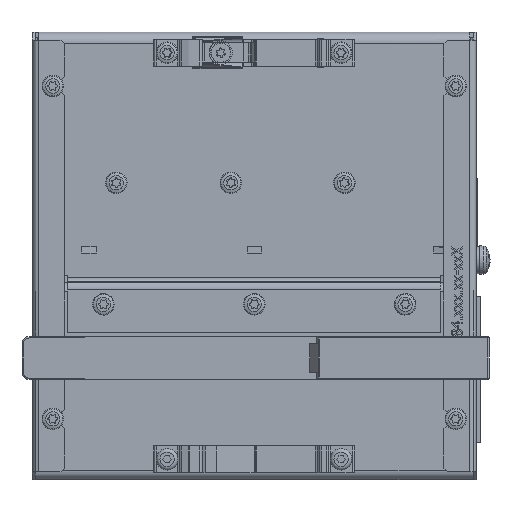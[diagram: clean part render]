
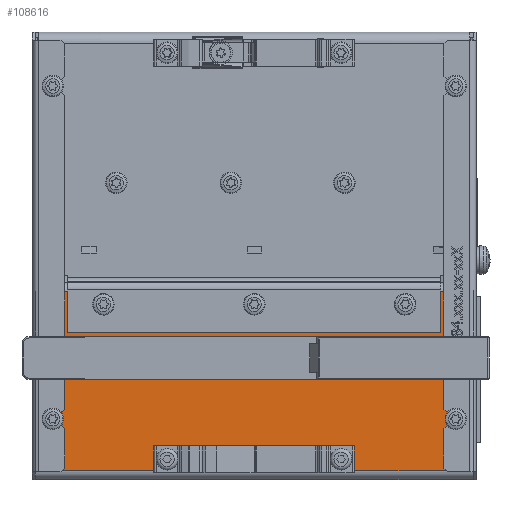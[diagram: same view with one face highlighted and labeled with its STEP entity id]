
A CAD part, left-side view. The second image highlights one B-rep face of the part: STEP entity #108616.
In plain terms, the highlighted planar face has unit normal (-1, 0, 0).
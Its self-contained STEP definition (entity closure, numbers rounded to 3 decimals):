
#4510=FACE_BOUND('',#19971,.T.);
#4511=FACE_BOUND('',#19972,.T.);
#7968=PLANE('',#115328);
#13128=FACE_OUTER_BOUND('',#19970,.T.);
#19970=EDGE_LOOP('',(#96073,#96074,#96075,#96076));
#19971=EDGE_LOOP('',(#96077));
#19972=EDGE_LOOP('',(#96078,#96079,#96080,#96081));
#31722=LINE('',#169861,#44239);
#31762=LINE('',#169973,#44279);
#31769=LINE('',#170005,#44286);
#31772=LINE('',#170011,#44289);
#31775=LINE('',#170017,#44292);
#31778=LINE('',#170021,#44295);
#31781=LINE('',#170027,#44298);
#31783=LINE('',#170031,#44300);
#44239=VECTOR('',#136136,10.);
#44279=VECTOR('',#136256,10.);
#44286=VECTOR('',#136293,10.);
#44289=VECTOR('',#136298,10.);
#44292=VECTOR('',#136303,10.);
#44295=VECTOR('',#136308,10.);
#44298=VECTOR('',#136317,10.);
#44300=VECTOR('',#136323,10.);
#47561=CIRCLE('',#115317,1.225);
#55496=VERTEX_POINT('',#169858);
#55497=VERTEX_POINT('',#169860);
#55528=VERTEX_POINT('',#169970);
#55529=VERTEX_POINT('',#169972);
#55534=VERTEX_POINT('',#169993);
#55538=VERTEX_POINT('',#170002);
#55539=VERTEX_POINT('',#170004);
#55541=VERTEX_POINT('',#170010);
#55543=VERTEX_POINT('',#170016);
#69454=EDGE_CURVE('',#55496,#55497,#31722,.T.);
#69510=EDGE_CURVE('',#55529,#55528,#31762,.T.);
#69521=EDGE_CURVE('',#55534,#55534,#47561,.T.);
#69526=EDGE_CURVE('',#55539,#55538,#31769,.T.);
#69529=EDGE_CURVE('',#55541,#55539,#31772,.T.);
#69532=EDGE_CURVE('',#55543,#55541,#31775,.T.);
#69535=EDGE_CURVE('',#55538,#55543,#31778,.T.);
#69538=EDGE_CURVE('',#55528,#55497,#31781,.T.);
#69540=EDGE_CURVE('',#55496,#55529,#31783,.T.);
#96073=ORIENTED_EDGE('',*,*,#69538,.T.);
#96074=ORIENTED_EDGE('',*,*,#69454,.F.);
#96075=ORIENTED_EDGE('',*,*,#69540,.T.);
#96076=ORIENTED_EDGE('',*,*,#69510,.T.);
#96077=ORIENTED_EDGE('',*,*,#69521,.T.);
#96078=ORIENTED_EDGE('',*,*,#69532,.T.);
#96079=ORIENTED_EDGE('',*,*,#69529,.T.);
#96080=ORIENTED_EDGE('',*,*,#69526,.T.);
#96081=ORIENTED_EDGE('',*,*,#69535,.T.);
#108616=ADVANCED_FACE('',(#13128,#4510,#4511),#7968,.T.);
#115317=AXIS2_PLACEMENT_3D('',#169994,#136284,#136285);
#115328=AXIS2_PLACEMENT_3D('',#170032,#136324,#136325);
#136136=DIRECTION('',(0.,1.,0.));
#136256=DIRECTION('',(0.,1.,0.));
#136284=DIRECTION('center_axis',(1.,0.,0.));
#136285=DIRECTION('ref_axis',(0.,0.,-1.));
#136293=DIRECTION('',(0.,-1.,0.));
#136298=DIRECTION('',(0.,0.,1.));
#136303=DIRECTION('',(0.,1.,0.));
#136308=DIRECTION('',(0.,0.,-1.));
#136317=DIRECTION('',(0.,0.,-1.));
#136323=DIRECTION('',(0.,0.,1.));
#136324=DIRECTION('center_axis',(-1.,0.,0.));
#136325=DIRECTION('ref_axis',(0.,0.,1.));
#169858=CARTESIAN_POINT('',(0.,-25.,-61.15));
#169860=CARTESIAN_POINT('',(0.,25.,-61.15));
#169861=CARTESIAN_POINT('',(0.,-27.5,-61.15));
#169970=CARTESIAN_POINT('',(0.,25.,61.15));
#169972=CARTESIAN_POINT('',(0.,-25.,61.15));
#169973=CARTESIAN_POINT('',(0.,-27.5,61.15));
#169993=CARTESIAN_POINT('',(0.,21.8,25.575));
#169994=CARTESIAN_POINT('Origin',(0.,21.8,24.35));
#170002=CARTESIAN_POINT('',(0.,-8.7,-30.4));
#170004=CARTESIAN_POINT('',(0.,-4.3,-30.4));
#170005=CARTESIAN_POINT('',(0.,-18.1,-30.4));
#170010=CARTESIAN_POINT('',(0.,-4.3,-34.8));
#170011=CARTESIAN_POINT('',(0.,-4.3,-45.775));
#170016=CARTESIAN_POINT('',(0.,-8.7,-34.8));
#170017=CARTESIAN_POINT('',(0.,-15.9,-34.8));
#170021=CARTESIAN_POINT('',(0.,-8.7,-47.975));
#170027=CARTESIAN_POINT('',(0.,25.,-61.15));
#170031=CARTESIAN_POINT('',(0.,-25.,-30.575));
#170032=CARTESIAN_POINT('Origin',(0.,-27.5,-61.15));
